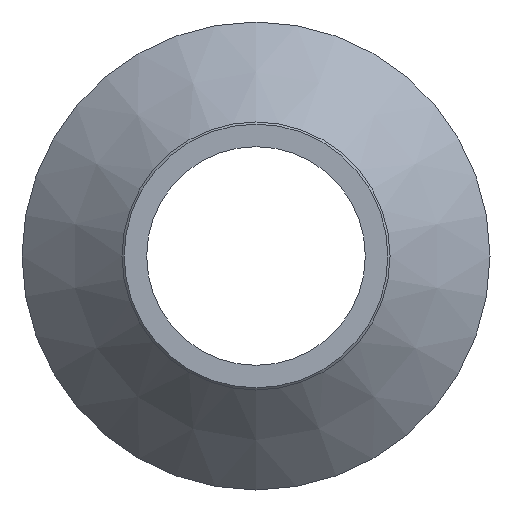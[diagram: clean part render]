
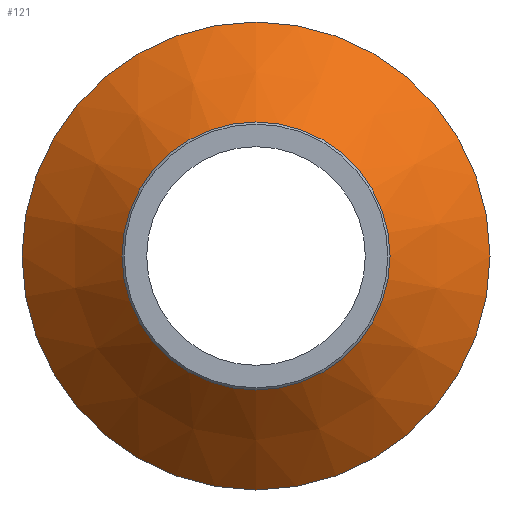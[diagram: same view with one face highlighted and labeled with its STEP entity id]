
A CAD part, left-side view. The second image highlights one B-rep face of the part: STEP entity #121.
In plain terms, the highlighted conical face has half-angle 45.616 degrees and reference radius 55 mm.
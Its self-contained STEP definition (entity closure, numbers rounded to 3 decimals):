
#22=CONICAL_SURFACE('',#146,55.,0.796);
#28=ORIENTED_EDGE('',*,*,#48,.F.);
#29=ORIENTED_EDGE('',*,*,#47,.T.);
#47=EDGE_CURVE('',#57,#57,#67,.T.);
#48=EDGE_CURVE('',#58,#58,#68,.T.);
#57=VERTEX_POINT('',#210);
#58=VERTEX_POINT('',#213);
#67=CIRCLE('',#145,55.);
#68=CIRCLE('',#147,31.5);
#78=EDGE_LOOP('',(#28));
#79=EDGE_LOOP('',(#29));
#98=FACE_BOUND('',#78,.T.);
#99=FACE_BOUND('',#79,.T.);
#121=ADVANCED_FACE('',(#98,#99),#22,.T.);
#145=AXIS2_PLACEMENT_3D('',#209,#169,#170);
#146=AXIS2_PLACEMENT_3D('',#211,#171,#172);
#147=AXIS2_PLACEMENT_3D('',#212,#173,#174);
#169=DIRECTION('',(-1.,0.,0.));
#170=DIRECTION('',(0.,0.,1.));
#171=DIRECTION('',(1.,0.,0.));
#172=DIRECTION('',(0.,0.,-1.));
#173=DIRECTION('',(-1.,0.,0.));
#174=DIRECTION('',(0.,0.,1.));
#209=CARTESIAN_POINT('',(11.5,0.,0.));
#210=CARTESIAN_POINT('',(11.5,0.,55.));
#211=CARTESIAN_POINT('',(11.5,0.,0.));
#212=CARTESIAN_POINT('',(-11.5,0.,0.));
#213=CARTESIAN_POINT('',(-11.5,0.,31.5));
